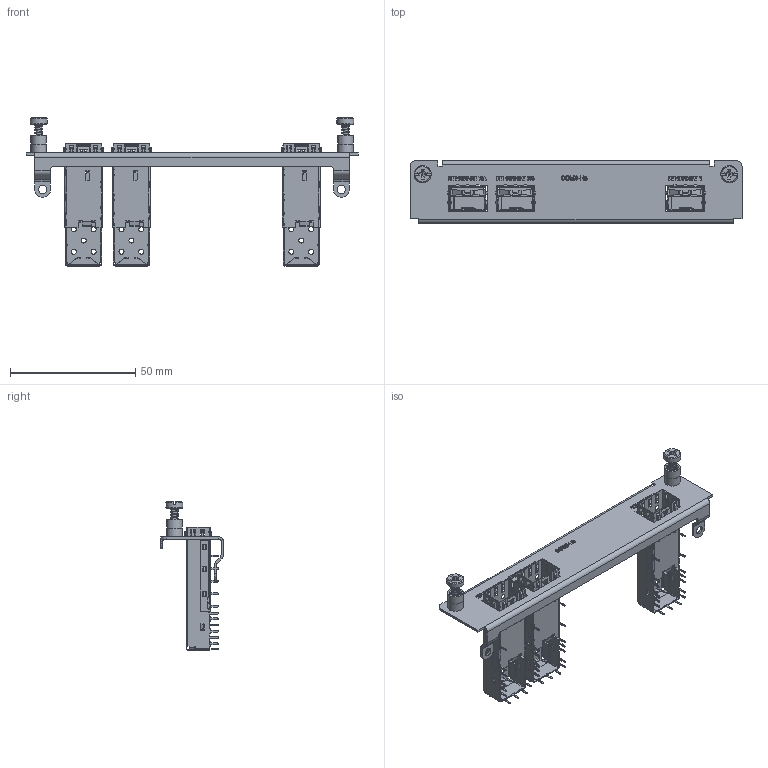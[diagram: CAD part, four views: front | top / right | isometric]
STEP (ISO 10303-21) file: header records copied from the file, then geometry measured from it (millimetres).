
FILE_DESCRIPTION(/* description */ (''),/* implementation_level */ '2;1');
FILE_NAME(/* name */ 'C:\Workspace\Workspace\103 - Highland\Engineering\95792\H8-FLEX.stp',/* time_stamp */ '2023-04-14T13:41:44-05:00',/* author */ ('jasonz'),/* organization */ (''),/* preprocessor_version */ 'ST-DEVELOPER v18.1',/* originating_system */ 'Autodesk Inventor 2022',/* authorisation */ '');
FILE_SCHEMA (('AUTOMOTIVE_DESIGN { 1 0 10303 214 3 1 1 }'));
Products named in the file (7): H8-FLEX; 9579230117; 9579200030; 9579200030_1; 44090; 9579200096; Amphenol U77A1113X001
Assembly tree (9 placements, depth 4):
  H8-FLEX
    9579230117
      9579200030
        9579200030_1
      44090  x2
    9579200096
    Amphenol U77A1113X001  x3
Bounding box: 132.59 x 25.02 x 59.11 mm (x, y, z)
Volume: 3999 mm3; surface area: 23472.2 mm2
Topology: 43 solids, 3652 shells, 4356 faces, 20860 edges, 20199 vertices
Faces by surface type: plane 2476, cylinder 1468, bspline 374, cone 36, torus 2
Full cylindrical faces by diameter (mm): 1.905 x2, 2.413 x2, 2.824 x2, 2.921 x2, 3.251 x2, 3.632 x2, 3.658 x2, 3.912 x2, 4.648 x2, 4.826 x2, 6.223 x4, 6.833 x2
Entity records: 95497 total; most frequent: CARTESIAN_POINT 28517, DIRECTION 12845, ORIENTED_EDGE 9757, EDGE_CURVE 8039, VERTEX_POINT 7453, LINE 5455, VECTOR 5455, AXIS2_PLACEMENT_3D 3695
